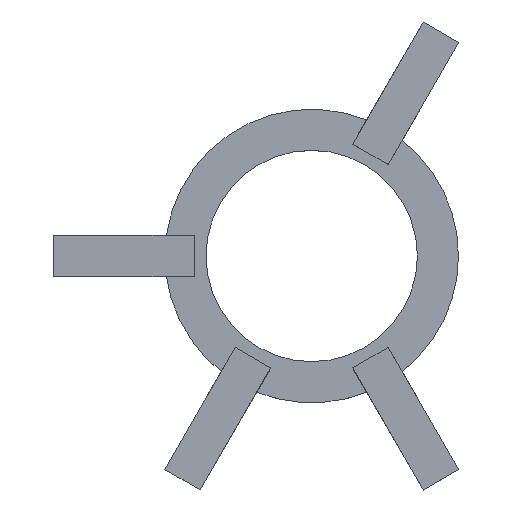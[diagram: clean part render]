
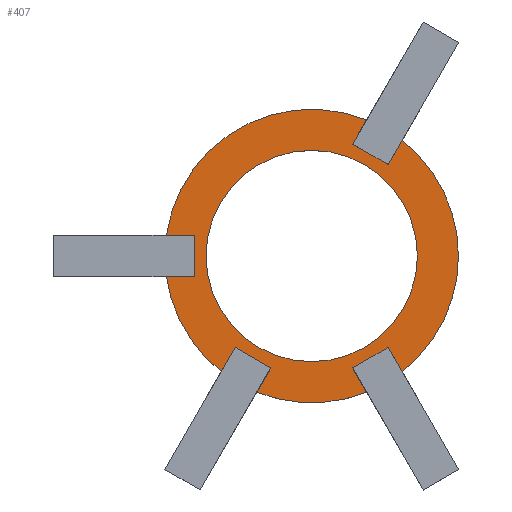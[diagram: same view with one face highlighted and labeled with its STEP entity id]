
A CAD part, top view. The second image highlights one B-rep face of the part: STEP entity #407.
In plain terms, the highlighted planar face has unit normal (0, 0, 1).
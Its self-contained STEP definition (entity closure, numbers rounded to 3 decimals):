
#380 = VERTEX_POINT('',#381);
#381 = CARTESIAN_POINT('',(53.346,16.668,10.));
#387 = EDGE_CURVE('',#388,#380,#390,.T.);
#388 = VERTEX_POINT('',#389);
#389 = CARTESIAN_POINT('',(34.654,16.668,10.));
#390 = CIRCLE('',#391,25.);
#391 = AXIS2_PLACEMENT_3D('',#392,#393,#394);
#392 = CARTESIAN_POINT('',(44.,39.855,10.));
#393 = DIRECTION('',(0.,0.,1.));
#394 = DIRECTION('',(1.,0.,0.));
#407 = ADVANCED_FACE('',(#408,#541),#552,.T.);
#408 = FACE_BOUND('',#409,.T.);
#409 = EDGE_LOOP('',(#410,#421,#430,#438,#446,#454,#463,#471,#479,#487,
    #496,#504,#512,#518,#519,#527,#535));
#410 = ORIENTED_EDGE('',*,*,#411,.T.);
#411 = EDGE_CURVE('',#412,#414,#416,.T.);
#412 = VERTEX_POINT('',#413);
#413 = CARTESIAN_POINT('',(59.408,20.168,10.));
#414 = VERTEX_POINT('',#415);
#415 = CARTESIAN_POINT('',(69.,39.855,10.));
#416 = CIRCLE('',#417,25.);
#417 = AXIS2_PLACEMENT_3D('',#418,#419,#420);
#418 = CARTESIAN_POINT('',(44.,39.855,10.));
#419 = DIRECTION('',(0.,0.,1.));
#420 = DIRECTION('',(1.,0.,0.));
#421 = ORIENTED_EDGE('',*,*,#422,.T.);
#422 = EDGE_CURVE('',#414,#423,#425,.T.);
#423 = VERTEX_POINT('',#424);
#424 = CARTESIAN_POINT('',(59.408,59.543,10.));
#425 = CIRCLE('',#426,25.);
#426 = AXIS2_PLACEMENT_3D('',#427,#428,#429);
#427 = CARTESIAN_POINT('',(44.,39.855,10.));
#428 = DIRECTION('',(0.,0.,1.));
#429 = DIRECTION('',(1.,0.,0.));
#430 = ORIENTED_EDGE('',*,*,#431,.T.);
#431 = EDGE_CURVE('',#423,#432,#434,.T.);
#432 = VERTEX_POINT('',#433);
#433 = CARTESIAN_POINT('',(57.031,55.426,10.));
#434 = LINE('',#435,#436);
#435 = CARTESIAN_POINT('',(52.031,46.765,10.));
#436 = VECTOR('',#437,1.);
#437 = DIRECTION('',(-0.5,-0.866,0.));
#438 = ORIENTED_EDGE('',*,*,#439,.T.);
#439 = EDGE_CURVE('',#432,#440,#442,.T.);
#440 = VERTEX_POINT('',#441);
#441 = CARTESIAN_POINT('',(50.969,58.926,10.));
#442 = LINE('',#443,#444);
#443 = CARTESIAN_POINT('',(55.516,56.301,10.));
#444 = VECTOR('',#445,1.);
#445 = DIRECTION('',(-0.866,0.5,0.));
#446 = ORIENTED_EDGE('',*,*,#447,.F.);
#447 = EDGE_CURVE('',#448,#440,#450,.T.);
#448 = VERTEX_POINT('',#449);
#449 = CARTESIAN_POINT('',(53.346,63.043,10.));
#450 = LINE('',#451,#452);
#451 = CARTESIAN_POINT('',(45.969,50.265,10.));
#452 = VECTOR('',#453,1.);
#453 = DIRECTION('',(-0.5,-0.866,0.));
#454 = ORIENTED_EDGE('',*,*,#455,.T.);
#455 = EDGE_CURVE('',#448,#456,#458,.T.);
#456 = VERTEX_POINT('',#457);
#457 = CARTESIAN_POINT('',(19.246,43.355,10.));
#458 = CIRCLE('',#459,25.);
#459 = AXIS2_PLACEMENT_3D('',#460,#461,#462);
#460 = CARTESIAN_POINT('',(44.,39.855,10.));
#461 = DIRECTION('',(0.,0.,1.));
#462 = DIRECTION('',(1.,0.,0.));
#463 = ORIENTED_EDGE('',*,*,#464,.T.);
#464 = EDGE_CURVE('',#456,#465,#467,.T.);
#465 = VERTEX_POINT('',#466);
#466 = CARTESIAN_POINT('',(24.,43.355,10.));
#467 = LINE('',#468,#469);
#468 = CARTESIAN_POINT('',(34.,43.355,10.));
#469 = VECTOR('',#470,1.);
#470 = DIRECTION('',(1.,0.,0.));
#471 = ORIENTED_EDGE('',*,*,#472,.T.);
#472 = EDGE_CURVE('',#465,#473,#475,.T.);
#473 = VERTEX_POINT('',#474);
#474 = CARTESIAN_POINT('',(24.,36.355,10.));
#475 = LINE('',#476,#477);
#476 = CARTESIAN_POINT('',(24.,41.605,10.));
#477 = VECTOR('',#478,1.);
#478 = DIRECTION('',(0.,-1.,0.));
#479 = ORIENTED_EDGE('',*,*,#480,.F.);
#480 = EDGE_CURVE('',#481,#473,#483,.T.);
#481 = VERTEX_POINT('',#482);
#482 = CARTESIAN_POINT('',(19.246,36.355,10.));
#483 = LINE('',#484,#485);
#484 = CARTESIAN_POINT('',(34.,36.355,10.));
#485 = VECTOR('',#486,1.);
#486 = DIRECTION('',(1.,0.,0.));
#487 = ORIENTED_EDGE('',*,*,#488,.T.);
#488 = EDGE_CURVE('',#481,#489,#491,.T.);
#489 = VERTEX_POINT('',#490);
#490 = CARTESIAN_POINT('',(28.592,20.168,10.));
#491 = CIRCLE('',#492,25.);
#492 = AXIS2_PLACEMENT_3D('',#493,#494,#495);
#493 = CARTESIAN_POINT('',(44.,39.855,10.));
#494 = DIRECTION('',(0.,0.,1.));
#495 = DIRECTION('',(1.,0.,0.));
#496 = ORIENTED_EDGE('',*,*,#497,.T.);
#497 = EDGE_CURVE('',#489,#498,#500,.T.);
#498 = VERTEX_POINT('',#499);
#499 = CARTESIAN_POINT('',(30.969,24.285,10.));
#500 = LINE('',#501,#502);
#501 = CARTESIAN_POINT('',(35.969,32.945,10.));
#502 = VECTOR('',#503,1.);
#503 = DIRECTION('',(0.5,0.866,0.));
#504 = ORIENTED_EDGE('',*,*,#505,.T.);
#505 = EDGE_CURVE('',#498,#506,#508,.T.);
#506 = VERTEX_POINT('',#507);
#507 = CARTESIAN_POINT('',(37.031,20.785,10.));
#508 = LINE('',#509,#510);
#509 = CARTESIAN_POINT('',(32.484,23.41,10.));
#510 = VECTOR('',#511,1.);
#511 = DIRECTION('',(0.866,-0.5,0.));
#512 = ORIENTED_EDGE('',*,*,#513,.F.);
#513 = EDGE_CURVE('',#388,#506,#514,.T.);
#514 = LINE('',#515,#516);
#515 = CARTESIAN_POINT('',(42.031,29.445,10.));
#516 = VECTOR('',#517,1.);
#517 = DIRECTION('',(0.5,0.866,0.));
#518 = ORIENTED_EDGE('',*,*,#387,.T.);
#519 = ORIENTED_EDGE('',*,*,#520,.T.);
#520 = EDGE_CURVE('',#380,#521,#523,.T.);
#521 = VERTEX_POINT('',#522);
#522 = CARTESIAN_POINT('',(50.969,20.785,10.));
#523 = LINE('',#524,#525);
#524 = CARTESIAN_POINT('',(45.969,29.445,10.));
#525 = VECTOR('',#526,1.);
#526 = DIRECTION('',(-0.5,0.866,0.));
#527 = ORIENTED_EDGE('',*,*,#528,.T.);
#528 = EDGE_CURVE('',#521,#529,#531,.T.);
#529 = VERTEX_POINT('',#530);
#530 = CARTESIAN_POINT('',(57.031,24.285,10.));
#531 = LINE('',#532,#533);
#532 = CARTESIAN_POINT('',(52.484,21.66,10.));
#533 = VECTOR('',#534,1.);
#534 = DIRECTION('',(0.866,0.5,0.));
#535 = ORIENTED_EDGE('',*,*,#536,.F.);
#536 = EDGE_CURVE('',#412,#529,#537,.T.);
#537 = LINE('',#538,#539);
#538 = CARTESIAN_POINT('',(52.031,32.945,10.));
#539 = VECTOR('',#540,1.);
#540 = DIRECTION('',(-0.5,0.866,0.));
#541 = FACE_BOUND('',#542,.T.);
#542 = EDGE_LOOP('',(#543));
#543 = ORIENTED_EDGE('',*,*,#544,.F.);
#544 = EDGE_CURVE('',#545,#545,#547,.T.);
#545 = VERTEX_POINT('',#546);
#546 = CARTESIAN_POINT('',(62.,39.855,10.));
#547 = CIRCLE('',#548,18.);
#548 = AXIS2_PLACEMENT_3D('',#549,#550,#551);
#549 = CARTESIAN_POINT('',(44.,39.855,10.));
#550 = DIRECTION('',(0.,0.,1.));
#551 = DIRECTION('',(1.,0.,0.));
#552 = PLANE('',#553);
#553 = AXIS2_PLACEMENT_3D('',#554,#555,#556);
#554 = CARTESIAN_POINT('',(44.,39.855,10.));
#555 = DIRECTION('',(0.,0.,1.));
#556 = DIRECTION('',(1.,0.,0.));
